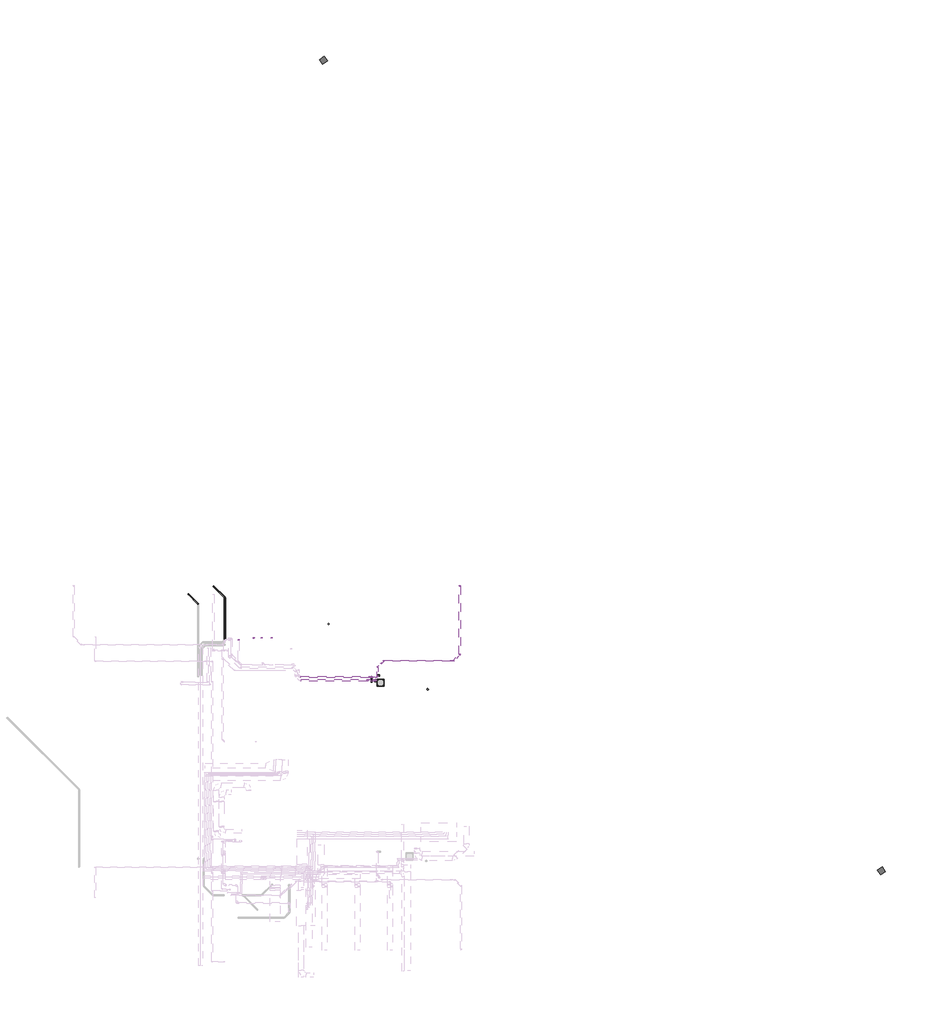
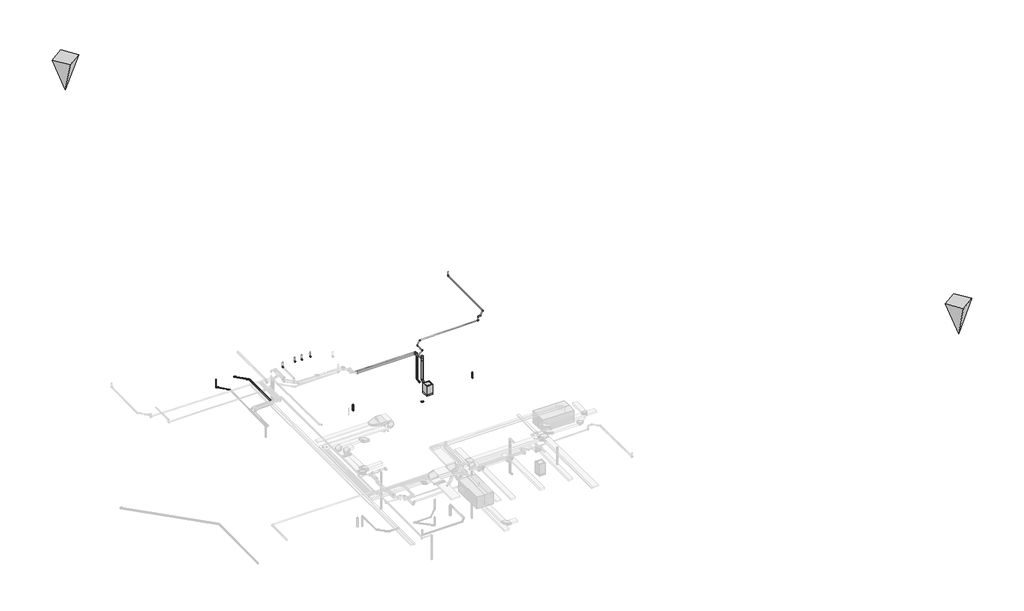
# One storey, part 10 of 10: 29 pipe segments, 25 pipe fittings, 3 proxies.
"""IFC4 building model written with IfcOpenShell, lengths in millimetres."""

from ifc_helpers import new_model, si_unit, point, frame, frame_2d, origin, place, context, project, spatial, circle_curve, trimmed, segment, composite_curve, outline, extrude, transform, mapped, element, save
from components import proxy_50x50_0a914695, pr1_8635f188, pipe_fitting_b994c117, pipe_fitting_5f63dbb8, pipe_fitting_aab77541, pipe_fitting_688cd524, pipe_fitting_7b861d32, pipe_fitting_67d104e7, pipe_fitting_3454c7e7, pipe_fitting_f9aaa2fa, pipe_fitting_5746b48a, pipe_fitting_b37f0415, pipe_fitting_e0fa64fe, pipe_fitting_c1e6232c, pipe_fitting_d6cfa5ea, pipe_fitting_78596532, pipe_fitting_2f575cfb, pipe_fitting_530662ba, pipe_fitting_a3851fe6, pipe_fitting_3241df74, pipe_fitting_8405c6f3

model = new_model("IFC4")

# Units and contexts
model_context = context("Model", 3, world=origin())
ifc_project = project(units=[si_unit("LENGTHUNIT", "METRE", prefix="MILLI")], contexts=[model_context])

# Site, building, storey
site = spatial("IfcSite", under=ifc_project)
building = spatial("IfcBuilding", under=site)
storey = spatial("IfcBuildingStorey", under=building, Name="Nivell 00 P00_PB", Elevation=6330.0)

# Proxies
placement = place(None, origin())
proxy_50x50_shape = proxy_50x50_0a914695(model_context)
element("IfcBuildingElementProxy", 1, Name="ARC_MDL_ME_Arqueta : 50x50", ObjectType="ARC_MDL_ME_Arqueta : 50x50", at=placement, inside=storey, context=model_context, shape_type="MappedRepresentation", body=[
    mapped(proxy_50x50_shape, transform((22537.6337384, 4130.3812229, 6430.0), x_axis=(0.9999999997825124, 2.085605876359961e-05, 0.0), y_axis=(-2.085605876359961e-05, 0.9999999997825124, 0.0), z_axis=(0.0, 0.0, 1.0))),
])
pr1_shape = pr1_8635f188(model_context)
element("IfcBuildingElementProxy", 2, Name="Punt_de_Referència : PR1", ObjectType="Punt_de_Referència : PR1", at=placement, inside=storey, context=model_context, shape_type="MappedRepresentation", body=[
    mapped(pr1_shape, transform((16741.1122791, 67377.5586536, 6380.0), x_axis=(0.5671423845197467, -0.8236197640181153, 0.0), y_axis=(0.8236197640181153, 0.5671423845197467, 0.0), z_axis=(0.0, 0.0, 1.0))),
])
element("IfcBuildingElementProxy", 3, Name="Punt_de_Referència : PR2", ObjectType="Punt_de_Referència : PR2", at=placement, inside=storey, context=model_context, shape_type="MappedRepresentation", body=[
    mapped(pr1_shape, transform((73453.6329725, -14985.6005658, 6380.0), x_axis=(0.5671423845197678, -0.8236197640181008, 0.0), y_axis=(0.8236197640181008, 0.5671423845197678, 0.0), z_axis=(0.0, 0.0, 1.0))),
])

# Pipe fittings
pipe_fitting_shape = pipe_fitting_b994c117(model_context)
element("IfcPipeFitting", 4, ObjectType="M_Codo - Genérico : Estándar", at=placement, inside=storey, context=model_context, shape_type="MappedRepresentation", body=[
    mapped(pipe_fitting_shape, transform((6705.0001359, 12784.8481993, 7256.2973024), x_axis=(0.0, 0.9999500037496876, 0.009999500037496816), y_axis=(-0.9999914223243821, -4.1416859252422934e-05, 0.004141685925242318), z_axis=(0.004141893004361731, -0.009999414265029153, 0.9999414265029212))),
])
pipe_fitting_2_shape = pipe_fitting_5f63dbb8(model_context)
element("IfcPipeFitting", 5, ObjectType="M_Codo - Genérico : Estándar", at=placement, inside=storey, context=model_context, shape_type="MappedRepresentation", body=[
    mapped(pipe_fitting_2_shape, transform((21408.3310884, 4707.5272892, 10338.6137338), x_axis=(0.9999500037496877, 0.0, -0.009999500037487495), y_axis=(-0.009999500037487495, 0.0, -0.9999500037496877), z_axis=(0.0, 1.0, 0.0))),
])
pipe_fitting_3_shape = pipe_fitting_aab77541(model_context)
element("IfcPipeFitting", 6, ObjectType="M_Codo - Genérico : Estándar", at=placement, inside=storey, context=model_context, shape_type="MappedRepresentation", body=[
    mapped(pipe_fitting_3_shape, transform((10460.2234698, 8697.1439797, 10881.5066358), x_axis=(0.0, 0.0, -1.0), y_axis=(0.0, -1.0, 0.0), z_axis=(-1.0, 0.0, 0.0))),
])
element("IfcPipeFitting", 7, ObjectType="M_Codo - Genérico : Estándar", at=placement, inside=storey, context=model_context, shape_type="MappedRepresentation", body=[
    mapped(pipe_fitting_3_shape, transform((9649.7079971, 8695.4444036, 10881.4900042), x_axis=(0.0, 0.0, -1.0), y_axis=(0.7071244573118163, -0.7070891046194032, 0.0), z_axis=(-0.7070891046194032, -0.7071244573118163, 0.0))),
])
element("IfcPipeFitting", 8, ObjectType="M_Codo - Genérico : Estándar", at=placement, inside=storey, context=model_context, shape_type="MappedRepresentation", body=[
    mapped(pipe_fitting_3_shape, transform((11455.8838613, 8697.1675887, 10881.498176), x_axis=(0.0, 0.0, -1.0), y_axis=(0.0, -1.0, 0.0), z_axis=(-1.0, 0.0, 0.0))),
])
element("IfcPipeFitting", 9, ObjectType="M_Codo - Genérico : Estándar", at=placement, inside=storey, context=model_context, shape_type="MappedRepresentation", body=[
    mapped(pipe_fitting_3_shape, transform((22218.7841567, 4866.8024591, 3830.0), x_axis=(0.0, 0.0, -1.0), y_axis=(1.0, 0.0, 0.0), z_axis=(0.0, -1.0, 0.0))),
])
pipe_fitting_4_shape = pipe_fitting_688cd524(model_context)
element("IfcPipeFitting", 10, ObjectType="M_Codo - Genérico : Estándar", at=placement, inside=storey, context=model_context, shape_type="MappedRepresentation", body=[
    mapped(pipe_fitting_4_shape, transform((3005.2304117, 13119.8781896, 7376.1272311), x_axis=(-0.7070714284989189, 0.7070714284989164, 0.009999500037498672), y_axis=(0.00707071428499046, -0.0070707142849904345, 0.9999500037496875), z_axis=(0.7071067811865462, 0.7071067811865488, 0.0))),
])
pipe_fitting_5_shape = pipe_fitting_7b861d32(model_context)
element("IfcPipeFitting", 11, ObjectType="M_Codo - Genérico : Estándar", at=placement, inside=storey, context=model_context, shape_type="MappedRepresentation", body=[
    mapped(pipe_fitting_5_shape, transform((4010.393115, 12114.7154425, 7361.9195534), x_axis=(0.0, 0.9999500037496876, 0.009999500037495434), y_axis=(-0.9999914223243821, -4.141685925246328e-05, 0.004141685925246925), z_axis=(0.004141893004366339, -0.009999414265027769, 0.9999414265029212))),
])
pipe_fitting_6_shape = pipe_fitting_67d104e7(model_context)
element("IfcPipeFitting", 12, ObjectType="M_Codo - Genérico : Estándar", at=placement, inside=storey, context=model_context, shape_type="MappedRepresentation", body=[
    mapped(pipe_fitting_6_shape, transform((30589.4059114, 6984.655764, 10894.9769213), x_axis=(0.0, -0.9999500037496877, -0.009999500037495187), y_axis=(0.9999914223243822, -4.141685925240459e-05, 0.004141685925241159), z_axis=(-0.004141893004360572, -0.009999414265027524, 0.9999414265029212))),
])
element("IfcPipeFitting", 13, ObjectType="M_Codo - Genérico : Estándar", at=placement, inside=storey, context=model_context, shape_type="MappedRepresentation", body=[
    mapped(pipe_fitting_6_shape, transform((22870.1942893, 6350.5932442, 10314.0689991), x_axis=(0.7070714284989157, 0.7070714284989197, 0.009999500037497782), y_axis=(-0.7070714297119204, 0.7071300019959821, -0.004141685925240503), z_axis=(-0.009999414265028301, -0.004141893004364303, 0.9999414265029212))),
])
element("IfcPipeFitting", 14, ObjectType="M_Codo - Genérico : Estándar", at=placement, inside=storey, context=model_context, shape_type="MappedRepresentation", body=[
    mapped(pipe_fitting_6_shape, transform((22222.9422017, 5703.3411566, 10304.9154723), x_axis=(0.0, 0.9999500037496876, 0.009999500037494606), y_axis=(-0.9999914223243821, 4.141685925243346e-05, -0.004141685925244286), z_axis=(-0.004141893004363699, -0.009999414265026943, 0.9999414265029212))),
])
pipe_fitting_7_shape = pipe_fitting_3454c7e7(model_context)
element("IfcPipeFitting", 15, ObjectType="M_Codo - Genérico : Estándar", at=placement, inside=storey, context=model_context, shape_type="MappedRepresentation", body=[
    mapped(pipe_fitting_7_shape, transform((30589.4059114, 13986.9636366, 10965.0), x_axis=(0.0, 0.0, -1.0), y_axis=(0.0, 1.0, 0.0), z_axis=(1.0, 0.0, 0.0))),
])
element("IfcPipeFitting", 16, ObjectType="M_Codo - Genérico : Estándar", at=placement, inside=storey, context=model_context, shape_type="MappedRepresentation", body=[
    mapped(pipe_fitting_7_shape, transform((29687.5703869, 6350.5932442, 10382.24276), x_axis=(0.9999500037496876, 0.0, 0.00999950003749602), y_axis=(0.00999950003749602, 0.0, -0.9999500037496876), z_axis=(0.0, 1.0, 0.0))),
])
pipe_fitting_8_shape = pipe_fitting_f9aaa2fa(model_context)
element("IfcPipeFitting", 17, ObjectType="M_Codo - Genérico : Estándar", at=placement, inside=storey, context=model_context, shape_type="MappedRepresentation", body=[
    mapped(pipe_fitting_8_shape, transform((29955.352721, 6350.6025322, 10886.0030113), x_axis=(-0.7070713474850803, -0.7070713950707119, -0.010007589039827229), y_axis=(0.7070715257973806, -0.7071299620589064, 0.0041320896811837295), z_axis=(-0.009998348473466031, -0.004154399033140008, 0.9999413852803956))),
])
pipe_fitting_9_shape = pipe_fitting_5746b48a(model_context)
element("IfcPipeFitting", 18, ObjectType="M_Codo - Genérico : Estándar", at=placement, inside=storey, context=model_context, shape_type="MappedRepresentation", body=[
    mapped(pipe_fitting_9_shape, transform((29687.5503889, 6350.6025322, 10883.3252733), x_axis=(-0.9999500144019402, 0.0, -0.009998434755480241), y_axis=(-0.009998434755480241, 0.0, 0.9999500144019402), z_axis=(0.0, 1.0, 0.0))),
])
pipe_fitting_10_shape = pipe_fitting_b37f0415(model_context)
element("IfcPipeFitting", 19, ObjectType="M_Codo - Genérico : Estándar", at=placement, inside=storey, context=model_context, shape_type="MappedRepresentation", body=[
    mapped(pipe_fitting_10_shape, transform((22012.4640122, 4371.3835791, 6927.8978029), x_axis=(0.0, 1.0, 0.0), y_axis=(0.0, 0.0, 1.0), z_axis=(1.0, 0.0, 0.0))),
])
pipe_fitting_11_shape = pipe_fitting_e0fa64fe(model_context)
element("IfcPipeFitting", 20, ObjectType="M_Codo - Genérico : Estándar", at=placement, inside=storey, context=model_context, shape_type="MappedRepresentation", body=[
    mapped(pipe_fitting_11_shape, transform((21612.4226846, 4707.5272892, 6927.8978029), x_axis=(0.0, 1.0, 0.0), y_axis=(0.0, 0.0, 1.0), z_axis=(1.0, 0.0, 0.0))),
])
pipe_fitting_12_shape = pipe_fitting_c1e6232c(model_context)
element("IfcPipeFitting", 21, ObjectType="M_Codo - Genérico : Estándar", at=placement, inside=storey, context=model_context, shape_type="MappedRepresentation", body=[
    mapped(pipe_fitting_12_shape, transform((8123.9452525, 8497.1463437, 10880.4509733), x_axis=(0.0, 0.0, -1.0), y_axis=(-1.92108497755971e-07, -0.9999999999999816, 0.0), z_axis=(-0.9999999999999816, 1.92108497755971e-07, 0.0))),
])
pipe_fitting_13_shape = pipe_fitting_d6cfa5ea(model_context)
element("IfcPipeFitting", 22, ObjectType="M_Codo - Genérico : Estándar", at=placement, inside=storey, context=model_context, shape_type="MappedRepresentation", body=[
    mapped(pipe_fitting_13_shape, transform((21612.4226846, 4707.5272892, 10134.5221377), x_axis=(0.0, 0.0, 1.0), y_axis=(-1.0, 0.0, 0.0), z_axis=(0.0, -1.0, 0.0))),
])
pipe_fitting_14_shape = pipe_fitting_78596532(model_context)
element("IfcPipeFitting", 23, ObjectType="M_Codo - Genérico : Estándar", at=placement, inside=storey, context=model_context, shape_type="MappedRepresentation", body=[
    mapped(pipe_fitting_14_shape, transform((27334.9640075, 3449.9042518, 5880.0), x_axis=(-2.2717310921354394e-05, -1.762650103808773e-06, -0.9999999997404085), y_axis=(0.7072826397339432, 0.7069308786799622, -1.731363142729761e-05), z_axis=(0.7069308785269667, -0.7072826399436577, -1.4812876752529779e-05))),
])
pipe_fitting_15_shape = pipe_fitting_2f575cfb(model_context)
element("IfcPipeFitting", 24, ObjectType="M_Codo - Genérico : Estándar", at=placement, inside=storey, context=model_context, shape_type="MappedRepresentation", body=[
    mapped(pipe_fitting_15_shape, transform((21196.6651665, 4371.3835791, 10455.6269544), x_axis=(0.9999999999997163, 0.0, 7.532783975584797e-07), y_axis=(7.532783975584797e-07, 0.0, -0.9999999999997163), z_axis=(0.0, 1.0, 0.0))),
])
pipe_fitting_16_shape = pipe_fitting_530662ba(model_context)
element("IfcPipeFitting", 25, ObjectType="M_Codo - Genérico : Estándar", at=placement, inside=storey, context=model_context, shape_type="MappedRepresentation", body=[
    mapped(pipe_fitting_16_shape, transform((22222.9422017, 4703.2161747, 10294.9142224), x_axis=(0.0, -0.9999500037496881, -0.009999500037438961), y_axis=(-0.7071244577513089, 0.0070705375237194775, -0.7070537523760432), z_axis=(0.7070891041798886, 0.007070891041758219, -0.7070891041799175))),
])
pipe_fitting_17_shape = pipe_fitting_a3851fe6(model_context)
element("IfcPipeFitting", 26, ObjectType="M_Te - Genérica : Estándar", at=placement, inside=storey, context=model_context, shape_type="MappedRepresentation", body=[
    mapped(pipe_fitting_17_shape, transform((21612.4226846, 4707.5272892, 9684.3947053), x_axis=(0.0, 0.0, 1.0), y_axis=(-1.0, 0.0, 0.0), z_axis=(0.0, -1.0, 0.0))),
])
pipe_fitting_18_shape = pipe_fitting_3241df74(model_context)
element("IfcPipeFitting", 27, ObjectType="M_Transición - Genérica : Estándar", at=placement, inside=storey, context=model_context, shape_type="MappedRepresentation", body=[
    mapped(pipe_fitting_18_shape, transform((21723.5339972, 4707.5272892, 9795.5060179), x_axis=(0.7071067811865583, 0.0, 0.7071067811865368), y_axis=(0.0, 1.0000000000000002, 0.0), z_axis=(-0.7071067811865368, 0.0, 0.7071067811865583))),
])
pipe_fitting_19_shape = pipe_fitting_8405c6f3(model_context)
element("IfcPipeFitting", 28, ObjectType="M_Te - Genérica : Estándar", at=placement, inside=storey, context=model_context, shape_type="MappedRepresentation", body=[
    mapped(pipe_fitting_19_shape, transform((22012.4640122, 4371.3835791, 9639.8281087), x_axis=(0.0, 0.0, 1.0), y_axis=(1.0, 0.0, 0.0), z_axis=(0.0, 1.0, 0.0))),
])

# Pipe segments
element("IfcPipeSegment", 29, ObjectType="PVC_Baixant", at=placement, inside=storey, context=model_context, shape_type="SweptSolid", body=[
    extrude(outline(composite_curve([segment(trimmed(circle_curve(frame_2d((0.0, -44.9999999)), 45.0), [point((-44.9977529, -45.4497056))], [point((-0.4497057, -0.0022471))], False, "CARTESIAN"), True, "CONTINUOUS"), segment(trimmed(circle_curve(frame_2d((0.0, -44.9999999)), 45.0), [point((-0.4497057, -0.0022471))], [point((44.9977529, -44.5502943))], False, "CARTESIAN"), True, "CONTINUOUS"), segment(trimmed(circle_curve(frame_2d((0.0, -44.9999999)), 45.0), [point((44.9977529, -44.5502943))], [point((0.4497058, -89.9977529))], False, "CARTESIAN"), True, "CONTINUOUS"), segment(trimmed(circle_curve(frame_2d((0.0, -44.9999999)), 45.0), [point((0.4497058, -89.9977529))], [point((-44.9977529, -45.4497056))], False, "CARTESIAN"), True, "CONTINUOUS")], self_intersect=False)), frame((3995.0508373, 12130.6937001, 7317.1410203), z_axis=(-0.7070714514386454, 0.7070714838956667, 0.009993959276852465), x_axis=(0.7071421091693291, 0.7070008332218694, 0.00999296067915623)), (0.0, 0.0, 1.0), 1348.0211714),
])
element("IfcPipeSegment", 30, ObjectType="PVC_Baixant", at=placement, inside=storey, context=model_context, shape_type="SweptSolid", body=[
    extrude(outline(composite_curve([segment(trimmed(circle_curve(frame_2d((0.0, 45.0)), 45.0), [point((-45.0, 45.0000001))], [point((0.0, 90.0000001))], False, "CARTESIAN"), True, "CONTINUOUS"), segment(trimmed(circle_curve(frame_2d((0.0, 45.0)), 45.0), [point((0.0, 90.0000001))], [point((44.9999999, 45.0))], False, "CARTESIAN"), True, "CONTINUOUS"), segment(trimmed(circle_curve(frame_2d((0.0, 45.0)), 45.0), [point((44.9999999, 45.0))], [point((-1e-07, 0.0))], False, "CARTESIAN"), True, "CONTINUOUS"), segment(trimmed(circle_curve(frame_2d((0.0, 45.0)), 45.0), [point((-1e-07, 0.0))], [point((-45.0, 45.0000001))], False, "CARTESIAN"), True, "CONTINUOUS")], self_intersect=False)), frame((3005.2304117, 13074.8781896, 7427.9919495), z_axis=(2.7901125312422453e-05, -3.390950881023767e-05, 0.9999999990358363), x_axis=(0.9999999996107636, 9.461160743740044e-10, -2.790112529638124e-05)), (0.0, 0.0, 1.0), 882.0056129),
])
element("IfcPipeSegment", 31, ObjectType="PVC_Baixant", at=placement, inside=storey, context=model_context, shape_type="SweptSolid", body=[
    extrude(outline(composite_curve([segment(trimmed(circle_curve(frame_2d((0.0, -62.5000001)), 62.5), [point((-62.4968756, -63.1249376))], [point((-0.6249376, -0.0031245))], False, "CARTESIAN"), True, "CONTINUOUS"), segment(trimmed(circle_curve(frame_2d((0.0, -62.5000001)), 62.5), [point((-0.6249376, -0.0031245))], [point((62.4968755, -61.8750626))], False, "CARTESIAN"), True, "CONTINUOUS"), segment(trimmed(circle_curve(frame_2d((0.0, -62.5000001)), 62.5), [point((62.4968755, -61.8750626))], [point((0.6249374, -124.9968756))], False, "CARTESIAN"), True, "CONTINUOUS"), segment(trimmed(circle_curve(frame_2d((0.0, -62.5000001)), 62.5), [point((0.6249374, -124.9968756))], [point((-62.4968756, -63.1249376))], False, "CARTESIAN"), True, "CONTINUOUS")], self_intersect=False)), frame((6684.0788482, 12806.6532821, 7194.0994231), z_axis=(-0.707071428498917, 0.7070714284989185, 0.009999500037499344), x_axis=(0.7071421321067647, 0.7070007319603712, 0.00999850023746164)), (0.0, 0.0, 1.0), 1610.8919232),
])
element("IfcPipeSegment", 32, ObjectType="PVC_Baixant", at=placement, inside=storey, context=model_context, shape_type="SweptSolid", body=[
    extrude(outline(composite_curve([segment(trimmed(circle_curve(frame_2d((0.0, -62.5)), 62.5), [point((-62.5, -62.5))], [point((0.0, 0.0))], False, "CARTESIAN"), True, "CONTINUOUS"), segment(trimmed(circle_curve(frame_2d((0.0, -62.5)), 62.5), [point((0.0, 0.0))], [point((62.5, -62.5))], False, "CARTESIAN"), True, "CONTINUOUS"), segment(trimmed(circle_curve(frame_2d((0.0, -62.5)), 62.5), [point((62.5, -62.5))], [point((0.0, -125.0))], False, "CARTESIAN"), True, "CONTINUOUS"), segment(trimmed(circle_curve(frame_2d((0.0, -62.5)), 62.5), [point((0.0, -125.0))], [point((-62.5, -62.5))], False, "CARTESIAN"), True, "CONTINUOUS")], self_intersect=False)), frame((6705.0001359, 8485.2923614, 7150.7986191), z_axis=(0.0, 0.9999500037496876, 0.009999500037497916), x_axis=(1.0, 0.0, 0.0)), (0.0, 0.0, 1.0), 4270.8071621),
])
element("IfcPipeSegment", 33, ObjectType="PVC_Baixant", at=placement, inside=storey, context=model_context, shape_type="SweptSolid", body=[
    extrude(outline(composite_curve([segment(trimmed(circle_curve(frame_2d((17253.9363133, 10102.8257604)), 62.5), [point((17191.4363133, 10102.8257604))], [point((17253.9363133, 10165.3257604))], False, "CARTESIAN"), True, "CONTINUOUS"), segment(trimmed(circle_curve(frame_2d((17253.9363133, 10102.8257604)), 62.5), [point((17253.9363133, 10165.3257604))], [point((17316.4363133, 10102.8257604))], False, "CARTESIAN"), True, "CONTINUOUS"), segment(trimmed(circle_curve(frame_2d((17253.9363133, 10102.8257604)), 62.5), [point((17316.4363133, 10102.8257604))], [point((17253.9363133, 10040.3257604))], False, "CARTESIAN"), True, "CONTINUOUS"), segment(trimmed(circle_curve(frame_2d((17253.9363133, 10102.8257604)), 62.5), [point((17253.9363133, 10040.3257604))], [point((17191.4363133, 10102.8257604))], False, "CARTESIAN"), True, "CONTINUOUS")], self_intersect=False)), frame((0.0, 0.0, 1355.9341244), z_axis=(0.0, 0.0, 1.0), x_axis=(1.0, 0.0, 0.0)), (0.0, 0.0, 1.0), 698.4999375),
])
element("IfcPipeSegment", 34, ObjectType="PVC_Baixant", at=placement, inside=storey, context=model_context, shape_type="SweptSolid", body=[
    extrude(outline(composite_curve([segment(trimmed(circle_curve(frame_2d((30589.4059114, 13986.9636366)), 55.0), [point((30534.4059114, 13986.9636366))], [point((30589.4059114, 14041.9636366))], False, "CARTESIAN"), True, "CONTINUOUS"), segment(trimmed(circle_curve(frame_2d((30589.4059114, 13986.9636366)), 55.0), [point((30589.4059114, 14041.9636366))], [point((30644.4059114, 13986.9636366))], False, "CARTESIAN"), True, "CONTINUOUS"), segment(trimmed(circle_curve(frame_2d((30589.4059114, 13986.9636366)), 55.0), [point((30644.4059114, 13986.9636366))], [point((30589.4059114, 13931.9636366))], False, "CARTESIAN"), True, "CONTINUOUS"), segment(trimmed(circle_curve(frame_2d((30589.4059114, 13986.9636366)), 55.0), [point((30589.4059114, 13931.9636366))], [point((30534.4059114, 13986.9636366))], False, "CARTESIAN"), True, "CONTINUOUS")], self_intersect=False)), frame((0.0, 0.0, 11027.3112718), z_axis=(0.0, 0.0, 1.0), x_axis=(1.0, 0.0, 0.0)), (0.0, 0.0, 1.0), 402.6887282),
])
element("IfcPipeSegment", 35, ObjectType="PVC_Baixant", at=placement, inside=storey, context=model_context, shape_type="SweptSolid", body=[
    extrude(outline(composite_curve([segment(trimmed(circle_curve(frame_2d((0.0, -55.0)), 55.0), [point((-55.0, -55.0))], [point((0.0, 0.0))], False, "CARTESIAN"), True, "CONTINUOUS"), segment(trimmed(circle_curve(frame_2d((0.0, -55.0)), 55.0), [point((0.0, 0.0))], [point((55.0, -55.0))], False, "CARTESIAN"), True, "CONTINUOUS"), segment(trimmed(circle_curve(frame_2d((0.0, -55.0)), 55.0), [point((55.0, -55.0))], [point((0.0, -110.0))], False, "CARTESIAN"), True, "CONTINUOUS"), segment(trimmed(circle_curve(frame_2d((0.0, -55.0)), 55.0), [point((0.0, -110.0))], [point((-55.0, -55.0))], False, "CARTESIAN"), True, "CONTINUOUS")], self_intersect=False)), frame((30589.4059114, 7011.2724723, 10840.2403384), z_axis=(0.0, 0.9999500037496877, 0.009999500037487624), x_axis=(1.0, 0.0, 0.0)), (0.0, 0.0, 1.0), 6914.2786683),
])
element("IfcPipeSegment", 36, ObjectType="PVC_Baixant", at=placement, inside=storey, context=model_context, shape_type="SweptSolid", body=[
    extrude(outline(composite_curve([segment(trimmed(circle_curve(frame_2d((0.0, -55.0)), 55.0), [point((-54.997246, -54.4496102))], [point((0.5503898, -0.0027539))], False, "CARTESIAN"), True, "CONTINUOUS"), segment(trimmed(circle_curve(frame_2d((0.0, -55.0)), 55.0), [point((0.5503898, -0.0027539))], [point((54.997246, -55.5503898))], False, "CARTESIAN"), True, "CONTINUOUS"), segment(trimmed(circle_curve(frame_2d((0.0, -55.0)), 55.0), [point((54.997246, -55.5503898))], [point((-0.5503899, -109.9972461))], False, "CARTESIAN"), True, "CONTINUOUS"), segment(trimmed(circle_curve(frame_2d((0.0, -55.0)), 55.0), [point((-0.5503899, -109.9972461))], [point((-54.997246, -54.4496102))], False, "CARTESIAN"), True, "CONTINUOUS")], self_intersect=False)), frame((29973.7846855, 6369.8128666, 10831.2693976), z_axis=(0.7070713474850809, 0.7070713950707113, 0.010007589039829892), x_axis=(0.7071422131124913, -0.707000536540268, -0.010006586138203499)), (0.0, 0.0, 1.0), 844.5954746),
])
element("IfcPipeSegment", 37, ObjectType="PVC_Baixant", at=placement, inside=storey, context=model_context, shape_type="SweptSolid", body=[
    extrude(outline(composite_curve([segment(trimmed(circle_curve(frame_2d((0.0, -55.0)), 55.0), [point((0.0, 0.0))], [point((55.0, -55.0))], False, "CARTESIAN"), True, "CONTINUOUS"), segment(trimmed(circle_curve(frame_2d((0.0, -55.0)), 55.0), [point((55.0, -55.0))], [point((0.0, -110.0))], False, "CARTESIAN"), True, "CONTINUOUS"), segment(trimmed(circle_curve(frame_2d((0.0, -55.0)), 55.0), [point((0.0, -110.0))], [point((-55.0, -55.0))], False, "CARTESIAN"), True, "CONTINUOUS"), segment(trimmed(circle_curve(frame_2d((0.0, -55.0)), 55.0), [point((-55.0, -55.0))], [point((0.0, 0.0))], False, "CARTESIAN"), True, "CONTINUOUS")], self_intersect=False)), frame((22896.2610251, 6405.5932442, 10314.3296664), z_axis=(0.9999500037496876, 0.0, 0.009999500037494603), x_axis=(0.009999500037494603, 0.0, -0.9999500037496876)), (0.0, 0.0, 1.0), 6729.3376471),
])
element("IfcPipeSegment", 38, ObjectType="PVC_Baixant", at=placement, inside=storey, context=model_context, shape_type="SweptSolid", body=[
    extrude(outline(composite_curve([segment(trimmed(circle_curve(frame_2d((0.0, -55.0)), 55.0), [point((-54.9972505, -54.450055))], [point((0.549945, -0.0027495))], False, "CARTESIAN"), True, "CONTINUOUS"), segment(trimmed(circle_curve(frame_2d((0.0, -55.0)), 55.0), [point((0.549945, -0.0027495))], [point((54.9972505, -55.549945))], False, "CARTESIAN"), True, "CONTINUOUS"), segment(trimmed(circle_curve(frame_2d((0.0, -55.0)), 55.0), [point((54.9972505, -55.549945))], [point((-0.5499449, -109.9972505))], False, "CARTESIAN"), True, "CONTINUOUS"), segment(trimmed(circle_curve(frame_2d((0.0, -55.0)), 55.0), [point((-0.5499449, -109.9972505))], [point((-54.9972505, -54.450055))], False, "CARTESIAN"), True, "CONTINUOUS")], self_intersect=False)), frame((22241.3741673, 5722.5508619, 10250.1816388), z_axis=(0.707071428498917, 0.7070714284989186, 0.009999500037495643), x_axis=(0.7071421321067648, -0.7070007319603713, -0.009998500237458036)), (0.0, 0.0, 1.0), 863.2623688),
])
element("IfcPipeSegment", 39, ObjectType="PVC_Baixant", at=placement, inside=storey, context=model_context, shape_type="SweptSolid", body=[
    extrude(outline(composite_curve([segment(trimmed(circle_curve(frame_2d((0.0, -55.0)), 55.0), [point((0.0, 0.0))], [point((55.0, -55.0))], False, "CARTESIAN"), True, "CONTINUOUS"), segment(trimmed(circle_curve(frame_2d((0.0, -55.0)), 55.0), [point((55.0, -55.0))], [point((0.0, -110.0))], False, "CARTESIAN"), True, "CONTINUOUS"), segment(trimmed(circle_curve(frame_2d((0.0, -55.0)), 55.0), [point((0.0, -110.0))], [point((-55.0, -55.0))], False, "CARTESIAN"), True, "CONTINUOUS"), segment(trimmed(circle_curve(frame_2d((0.0, -55.0)), 55.0), [point((-55.0, -55.0))], [point((0.0, 0.0))], False, "CARTESIAN"), True, "CONTINUOUS")], self_intersect=False)), frame((29749.8586125, 6405.6025322, 10883.9482891), z_axis=(0.9999500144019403, 0.0, 0.009998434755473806), x_axis=(0.009998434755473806, 0.0, -0.9999500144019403)), (0.0, 0.0, 1.0), 179.4363416),
])
element("IfcPipeSegment", 40, ObjectType="PVC_Baixant", at=placement, inside=storey, context=model_context, shape_type="SweptSolid", body=[
    extrude(outline(composite_curve([segment(trimmed(circle_curve(frame_2d((0.0, 55.0)), 55.0), [point((-55.0, 55.0000001))], [point((1e-07, 109.9999999))], False, "CARTESIAN"), True, "CONTINUOUS"), segment(trimmed(circle_curve(frame_2d((0.0, 55.0)), 55.0), [point((1e-07, 109.9999999))], [point((55.0000001, 54.9999999))], False, "CARTESIAN"), True, "CONTINUOUS"), segment(trimmed(circle_curve(frame_2d((0.0, 55.0)), 55.0), [point((55.0000001, 54.9999999))], [point((0.0, 0.0))], False, "CARTESIAN"), True, "CONTINUOUS"), segment(trimmed(circle_curve(frame_2d((0.0, 55.0)), 55.0), [point((0.0, 0.0))], [point((-55.0, 55.0000001))], False, "CARTESIAN"), True, "CONTINUOUS")], self_intersect=False)), frame((29687.5703869, 6295.5932442, 10444.5553888), z_axis=(-5.3121196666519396e-05, 2.467209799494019e-05, 0.9999999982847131), x_axis=(0.9999999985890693, 1.3106102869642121e-09, 5.312119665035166e-05)), (0.0, 0.0, 1.0), 376.4598967),
])
element("IfcPipeSegment", 41, ObjectType="PVC_Baixant", at=placement, inside=storey, context=model_context, shape_type="SweptSolid", body=[
    extrude(outline(composite_curve([segment(trimmed(circle_curve(frame_2d((0.0, -55.0)), 55.0), [point((-55.0, -55.0))], [point((0.0, 0.0))], False, "CARTESIAN"), True, "CONTINUOUS"), segment(trimmed(circle_curve(frame_2d((0.0, -55.0)), 55.0), [point((0.0, 0.0))], [point((55.0, -55.0))], False, "CARTESIAN"), True, "CONTINUOUS"), segment(trimmed(circle_curve(frame_2d((0.0, -55.0)), 55.0), [point((55.0, -55.0))], [point((0.0, -110.0))], False, "CARTESIAN"), True, "CONTINUOUS"), segment(trimmed(circle_curve(frame_2d((0.0, -55.0)), 55.0), [point((0.0, -110.0))], [point((-55.0, -55.0))], False, "CARTESIAN"), True, "CONTINUOUS")], self_intersect=False)), frame((22222.9422017, 4766.2570719, 10240.5418815), z_axis=(0.0, 0.9999500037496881, 0.009999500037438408), x_axis=(1.0, 0.0, 0.0)), (0.0, 0.0, 1.0), 911.6128986),
])
element("IfcPipeSegment", 42, ObjectType="PVC_Baixant", at=placement, inside=storey, context=model_context, shape_type="SweptSolid", body=[
    extrude(outline(composite_curve([segment(trimmed(circle_curve(frame_2d((0.0, 62.4999999)), 62.5), [point((-62.5, 62.4999999))], [point((-1e-07, 124.9999999))], False, "CARTESIAN"), True, "CONTINUOUS"), segment(trimmed(circle_curve(frame_2d((0.0, 62.4999999)), 62.5), [point((-1e-07, 124.9999999))], [point((62.5, 62.4999999))], False, "CARTESIAN"), True, "CONTINUOUS"), segment(trimmed(circle_curve(frame_2d((0.0, 62.4999999)), 62.5), [point((62.5, 62.4999999))], [point((0.0, 0.0))], False, "CARTESIAN"), True, "CONTINUOUS"), segment(trimmed(circle_curve(frame_2d((0.0, 62.4999999)), 62.5), [point((0.0, 0.0))], [point((-62.5, 62.4999999))], False, "CARTESIAN"), True, "CONTINUOUS")], self_intersect=False)), frame((27334.9656143, 3387.4043765, 5950.7264374), z_axis=(-6.163438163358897e-06, -2.374313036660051e-05, 0.999999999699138), x_axis=(0.9999999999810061, -1.463398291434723e-10, 6.163438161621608e-06)), (0.0, 0.0, 1.0), 629.2720788),
])
element("IfcPipeSegment", 43, ObjectType="PVC_Baixant", at=placement, inside=storey, context=model_context, shape_type="SweptSolid", body=[
    extrude(outline(composite_curve([segment(trimmed(circle_curve(frame_2d((0.0, 55.0)), 55.0), [point((-55.0, 54.9999998))], [point((-1e-07, 109.9999999))], False, "CARTESIAN"), True, "CONTINUOUS"), segment(trimmed(circle_curve(frame_2d((0.0, 55.0)), 55.0), [point((-1e-07, 109.9999999))], [point((55.0000001, 55.0000001))], False, "CARTESIAN"), True, "CONTINUOUS"), segment(trimmed(circle_curve(frame_2d((0.0, 55.0)), 55.0), [point((55.0000001, 55.0000001))], [point((1e-07, 0.0))], False, "CARTESIAN"), True, "CONTINUOUS"), segment(trimmed(circle_curve(frame_2d((0.0, 55.0)), 55.0), [point((1e-07, 0.0))], [point((-55.0, 54.9999998))], False, "CARTESIAN"), True, "CONTINUOUS")], self_intersect=False)), frame((9649.7079971, 8640.4444037, 10943.8038455), z_axis=(4.6715793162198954e-05, 4.671812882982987e-05, 0.9999999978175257), x_axis=(0.9999999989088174, -2.1824746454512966e-09, -4.6715793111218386e-05)), (0.0, 0.0, 1.0), 486.1987251),
])
element("IfcPipeSegment", 44, ObjectType="PVC_Baixant", at=placement, inside=storey, context=model_context, shape_type="SweptSolid", body=[
    extrude(outline(composite_curve([segment(trimmed(circle_curve(frame_2d((0.0, 55.0)), 55.0), [point((-55.0, 55.0))], [point((0.0, 110.0))], False, "CARTESIAN"), True, "CONTINUOUS"), segment(trimmed(circle_curve(frame_2d((0.0, 55.0)), 55.0), [point((0.0, 110.0))], [point((55.0, 55.0))], False, "CARTESIAN"), True, "CONTINUOUS"), segment(trimmed(circle_curve(frame_2d((0.0, 55.0)), 55.0), [point((55.0, 55.0))], [point((0.0, 0.0))], False, "CARTESIAN"), True, "CONTINUOUS"), segment(trimmed(circle_curve(frame_2d((0.0, 55.0)), 55.0), [point((0.0, 0.0))], [point((-55.0, 55.0))], False, "CARTESIAN"), True, "CONTINUOUS")], self_intersect=False)), frame((10460.2234698, 8642.1439798, 10943.8145453), z_axis=(-5.853505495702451e-07, -6.113222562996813e-05, 0.9999999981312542), x_axis=(0.9999999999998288, -3.578293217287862e-11, 5.85350548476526e-07)), (0.0, 0.0, 1.0), 486.1820905),
])
element("IfcPipeSegment", 45, ObjectType="PVC_Baixant", at=placement, inside=storey, context=model_context, shape_type="SweptSolid", body=[
    extrude(outline(composite_curve([segment(trimmed(circle_curve(frame_2d((0.0, 55.0)), 55.0), [point((-55.0, 55.0))], [point((0.0, 110.0))], False, "CARTESIAN"), True, "CONTINUOUS"), segment(trimmed(circle_curve(frame_2d((0.0, 55.0)), 55.0), [point((0.0, 110.0))], [point((55.0, 55.0))], False, "CARTESIAN"), True, "CONTINUOUS"), segment(trimmed(circle_curve(frame_2d((0.0, 55.0)), 55.0), [point((55.0, 55.0))], [point((0.0, 0.0))], False, "CARTESIAN"), True, "CONTINUOUS"), segment(trimmed(circle_curve(frame_2d((0.0, 55.0)), 55.0), [point((0.0, 0.0))], [point((-55.0, 55.0))], False, "CARTESIAN"), True, "CONTINUOUS")], self_intersect=False)), frame((11455.8838613, 8642.1675888, 10943.8060544), z_axis=(0.0, -6.169803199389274e-05, 0.9999999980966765), x_axis=(1.0, 0.0, 0.0)), (0.0, 0.0, 1.0), 486.1905532),
])
element("IfcPipeSegment", 46, ObjectType="PVC_Baixant", at=placement, inside=storey, context=model_context, shape_type="SweptSolid", body=[
    extrude(outline(composite_curve([segment(trimmed(circle_curve(frame_2d((8123.9452525, 8497.1463437)), 55.0), [point((8068.9452525, 8497.1463437))], [point((8123.9452525, 8552.1463437))], False, "CARTESIAN"), True, "CONTINUOUS"), segment(trimmed(circle_curve(frame_2d((8123.9452525, 8497.1463437)), 55.0), [point((8123.9452525, 8552.1463437))], [point((8178.9452525, 8497.1463437))], False, "CARTESIAN"), True, "CONTINUOUS"), segment(trimmed(circle_curve(frame_2d((8123.9452525, 8497.1463437)), 55.0), [point((8178.9452525, 8497.1463437))], [point((8123.9452525, 8442.1463437))], False, "CARTESIAN"), True, "CONTINUOUS"), segment(trimmed(circle_curve(frame_2d((8123.9452525, 8497.1463437)), 55.0), [point((8123.9452525, 8442.1463437))], [point((8068.9452525, 8497.1463437))], False, "CARTESIAN"), True, "CONTINUOUS")], self_intersect=False)), frame((0.0, 0.0, 10943.1995357), z_axis=(0.0, 0.0, 1.0), x_axis=(1.0, 0.0, 0.0)), (0.0, 0.0, 1.0), 484.8005643),
])
element("IfcPipeSegment", 47, ObjectType="PVC_Baixant", at=placement, inside=storey, context=model_context, shape_type="SweptSolid", body=[
    extrude(outline(composite_curve([segment(trimmed(circle_curve(frame_2d((0.0, -55.0)), 55.0), [point((0.0, -110.0))], [point((-55.0, -55.0))], False, "CARTESIAN"), True, "CONTINUOUS"), segment(trimmed(circle_curve(frame_2d((0.0, -55.0)), 55.0), [point((-55.0, -55.0))], [point((0.0, 0.0))], False, "CARTESIAN"), True, "CONTINUOUS"), segment(trimmed(circle_curve(frame_2d((0.0, -55.0)), 55.0), [point((0.0, 0.0))], [point((55.0, -55.0))], False, "CARTESIAN"), True, "CONTINUOUS"), segment(trimmed(circle_curve(frame_2d((0.0, -55.0)), 55.0), [point((55.0, -55.0))], [point((0.0, -110.0))], False, "CARTESIAN"), True, "CONTINUOUS")], self_intersect=False)), frame((22438.7691599, 4921.8024591, 3827.80015), z_axis=(-0.999950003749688, 0.0, 0.009999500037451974), x_axis=(0.009999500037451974, 0.0, 0.999950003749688)), (0.0, 0.0, 1.0), 157.6847303),
])
element("IfcPipeSegment", 48, ObjectType="PVC_Baixant", at=placement, inside=storey, context=model_context, shape_type="SweptSolid", body=[
    extrude(outline(composite_curve([segment(trimmed(circle_curve(frame_2d((0.0, 100.0)), 100.0), [point((-100.0, 100.0))], [point((0.0, 200.0))], False, "CARTESIAN"), True, "CONTINUOUS"), segment(trimmed(circle_curve(frame_2d((0.0, 100.0)), 100.0), [point((0.0, 200.0))], [point((100.0, 100.0))], False, "CARTESIAN"), True, "CONTINUOUS"), segment(trimmed(circle_curve(frame_2d((0.0, 100.0)), 100.0), [point((100.0, 100.0))], [point((0.0, 0.0))], False, "CARTESIAN"), True, "CONTINUOUS"), segment(trimmed(circle_curve(frame_2d((0.0, 100.0)), 100.0), [point((0.0, 0.0))], [point((-100.0, 100.0))], False, "CARTESIAN"), True, "CONTINUOUS")], self_intersect=False)), frame((14442.0402083, 4371.3835791, 10355.6218663), z_axis=(0.9999999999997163, 0.0, 7.532784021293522e-07), x_axis=(0.0, 1.0, 0.0)), (0.0, 0.0, 1.0), 6709.2530671),
])
element("IfcPipeSegment", 49, ObjectType="PVC_Baixant", at=placement, inside=storey, context=model_context, shape_type="SweptSolid", body=[
    extrude(outline(composite_curve([segment(trimmed(circle_curve(frame_2d((0.0, 100.0)), 100.0), [point((0.0, 200.0))], [point((100.0, 100.0))], False, "CARTESIAN"), True, "CONTINUOUS"), segment(trimmed(circle_curve(frame_2d((0.0, 100.0)), 100.0), [point((100.0, 100.0))], [point((0.0, 0.0))], False, "CARTESIAN"), True, "CONTINUOUS"), segment(trimmed(circle_curve(frame_2d((0.0, 100.0)), 100.0), [point((0.0, 0.0))], [point((-100.0, 100.0))], False, "CARTESIAN"), True, "CONTINUOUS"), segment(trimmed(circle_curve(frame_2d((0.0, 100.0)), 100.0), [point((-100.0, 100.0))], [point((0.0, 200.0))], False, "CARTESIAN"), True, "CONTINUOUS")], self_intersect=False)), frame((21836.3119313, 4271.3835791, 9815.9801897), z_axis=(-0.7071067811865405, 0.0, 0.7071067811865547), x_axis=(0.7071067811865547, 0.0, 0.7071067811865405)), (0.0, 0.0, 1.0), 859.2251634),
])
element("IfcPipeSegment", 50, ObjectType="PVC_Baixant", at=placement, inside=storey, context=model_context, shape_type="SweptSolid", body=[
    extrude(outline(composite_curve([segment(trimmed(circle_curve(frame_2d((22012.4640122, 4371.3835791)), 100.0), [point((22112.4640122, 4371.3835791))], [point((22012.4640122, 4271.3835791))], False, "CARTESIAN"), True, "CONTINUOUS"), segment(trimmed(circle_curve(frame_2d((22012.4640122, 4371.3835791)), 100.0), [point((22012.4640122, 4271.3835791))], [point((21912.4640122, 4371.3835791))], False, "CARTESIAN"), True, "CONTINUOUS"), segment(trimmed(circle_curve(frame_2d((22012.4640122, 4371.3835791)), 100.0), [point((21912.4640122, 4371.3835791))], [point((22012.4640122, 4471.3835791))], False, "CARTESIAN"), True, "CONTINUOUS"), segment(trimmed(circle_curve(frame_2d((22012.4640122, 4371.3835791)), 100.0), [point((22012.4640122, 4471.3835791))], [point((22112.4640122, 4371.3835791))], False, "CARTESIAN"), True, "CONTINUOUS")], self_intersect=False)), frame((0.0, 0.0, 7037.4353029), z_axis=(0.0, 0.0, 1.0), x_axis=(1.0, 0.0, 0.0)), (0.0, 0.0, 1.0), 2353.2761438),
])
element("IfcPipeSegment", 51, ObjectType="PVC_Baixant", at=placement, inside=storey, context=model_context, shape_type="SweptSolid", body=[
    extrude(outline(composite_curve([segment(trimmed(circle_curve(frame_2d((0.0, -62.5)), 62.5), [point((0.0, -125.0))], [point((-62.5, -62.5))], False, "CARTESIAN"), True, "CONTINUOUS"), segment(trimmed(circle_curve(frame_2d((0.0, -62.5)), 62.5), [point((-62.5, -62.5))], [point((0.0, 0.0))], False, "CARTESIAN"), True, "CONTINUOUS"), segment(trimmed(circle_curve(frame_2d((0.0, -62.5)), 62.5), [point((0.0, 0.0))], [point((62.5, -62.5))], False, "CARTESIAN"), True, "CONTINUOUS"), segment(trimmed(circle_curve(frame_2d((0.0, -62.5)), 62.5), [point((62.5, -62.5))], [point((0.0, -125.0))], False, "CARTESIAN"), True, "CONTINUOUS")], self_intersect=False)), frame((21379.1597614, 4770.0272892, 10338.9054471), z_axis=(-0.9999500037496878, 0.0, 0.009999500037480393), x_axis=(0.009999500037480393, 0.0, 0.9999500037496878)), (0.0, 0.0, 1.0), 6960.5207834),
])
element("IfcPipeSegment", 52, ObjectType="PVC_Baixant", at=placement, inside=storey, context=model_context, shape_type="SweptSolid", body=[
    extrude(outline(composite_curve([segment(trimmed(circle_curve(frame_2d((21612.4226846, 4707.5272892)), 62.5), [point((21549.9226846, 4707.5272892))], [point((21612.4226846, 4770.0272892))], False, "CARTESIAN"), True, "CONTINUOUS"), segment(trimmed(circle_curve(frame_2d((21612.4226846, 4707.5272892)), 62.5), [point((21612.4226846, 4770.0272892))], [point((21674.9226846, 4707.5272892))], False, "CARTESIAN"), True, "CONTINUOUS"), segment(trimmed(circle_curve(frame_2d((21612.4226846, 4707.5272892)), 62.5), [point((21674.9226846, 4707.5272892))], [point((21612.4226846, 4645.0272892))], False, "CARTESIAN"), True, "CONTINUOUS"), segment(trimmed(circle_curve(frame_2d((21612.4226846, 4707.5272892)), 62.5), [point((21612.4226846, 4645.0272892))], [point((21549.9226846, 4707.5272892))], False, "CARTESIAN"), True, "CONTINUOUS")], self_intersect=False)), frame((0.0, 0.0, 9841.5298305), z_axis=(0.0, 0.0, 1.0), x_axis=(1.0, 0.0, 0.0)), (0.0, 0.0, 1.0), 263.4019258),
])
element("IfcPipeSegment", 53, ObjectType="PVC_Baixant", at=placement, inside=storey, context=model_context, shape_type="SweptSolid", body=[
    extrude(outline(composite_curve([segment(trimmed(circle_curve(frame_2d((6927.8978029, 21612.4226846)), 62.5), [point((6927.8978029, 21674.9226846))], [point((6990.3978029, 21612.4226846))], False, "CARTESIAN"), True, "CONTINUOUS"), segment(trimmed(circle_curve(frame_2d((6927.8978029, 21612.4226846)), 62.5), [point((6990.3978029, 21612.4226846))], [point((6927.8978029, 21549.9226846))], False, "CARTESIAN"), True, "CONTINUOUS"), segment(trimmed(circle_curve(frame_2d((6927.8978029, 21612.4226846)), 62.5), [point((6927.8978029, 21549.9226846))], [point((6865.3978029, 21612.4226846))], False, "CARTESIAN"), True, "CONTINUOUS"), segment(trimmed(circle_curve(frame_2d((6927.8978029, 21612.4226846)), 62.5), [point((6865.3978029, 21612.4226846))], [point((6927.8978029, 21674.9226846))], False, "CARTESIAN"), True, "CONTINUOUS")], self_intersect=False)), frame((0.0, 4164.6169174, 0.0), z_axis=(0.0, 1.0, 0.0), x_axis=(0.0, 0.0, 1.0)), (0.0, 0.0, 1.0), 471.4728719),
])
element("IfcPipeSegment", 54, ObjectType="PVC_Baixant", at=placement, inside=storey, context=model_context, shape_type="SweptSolid", body=[
    extrude(outline(composite_curve([segment(trimmed(circle_curve(frame_2d((0.0, -55.0)), 55.0), [point((0.0, 0.0))], [point((55.0, -55.0))], False, "CARTESIAN"), True, "CONTINUOUS"), segment(trimmed(circle_curve(frame_2d((0.0, -55.0)), 55.0), [point((55.0, -55.0))], [point((0.0, -110.0))], False, "CARTESIAN"), True, "CONTINUOUS"), segment(trimmed(circle_curve(frame_2d((0.0, -55.0)), 55.0), [point((0.0, -110.0))], [point((-55.0, -55.0))], False, "CARTESIAN"), True, "CONTINUOUS"), segment(trimmed(circle_curve(frame_2d((0.0, -55.0)), 55.0), [point((-55.0, -55.0))], [point((0.0, 0.0))], False, "CARTESIAN"), True, "CONTINUOUS")], self_intersect=False)), frame((21746.5459035, 4758.2161747, 9818.5179242), z_axis=(0.7071067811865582, 0.0, 0.7071067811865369), x_axis=(0.7071067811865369, 0.0, -0.7071067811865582)), (0.0, 0.0, 1.0), 611.2320569),
])
element("IfcPipeSegment", 55, ObjectType="PVC_Baixant", at=placement, inside=storey, context=model_context, shape_type="SweptSolid", body=[
    extrude(outline(composite_curve([segment(trimmed(circle_curve(frame_2d((0.0, 62.5)), 62.5), [point((0.0, 125.0))], [point((62.5, 62.5))], False, "CARTESIAN"), True, "CONTINUOUS"), segment(trimmed(circle_curve(frame_2d((0.0, 62.5)), 62.5), [point((62.5, 62.5))], [point((0.0, 0.0))], False, "CARTESIAN"), True, "CONTINUOUS"), segment(trimmed(circle_curve(frame_2d((0.0, 62.5)), 62.5), [point((0.0, 0.0))], [point((-62.5, 62.5))], False, "CARTESIAN"), True, "CONTINUOUS"), segment(trimmed(circle_curve(frame_2d((0.0, 62.5)), 62.5), [point((-62.5, 62.5))], [point((0.0, 125.0))], False, "CARTESIAN"), True, "CONTINUOUS")], self_intersect=False)), frame((21591.4991252, 4645.0272892, 10155.445697), z_axis=(-0.7071067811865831, 0.0, 0.707106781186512), x_axis=(0.707106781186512, 0.0, 0.7071067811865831)), (0.0, 0.0, 1.0), 229.8659364),
])
element("IfcPipeSegment", 56, ObjectType="PVC_Baixant", at=placement, inside=storey, context=model_context, shape_type="SweptSolid", body=[
    extrude(outline(composite_curve([segment(trimmed(circle_curve(frame_2d((21612.4226846, 4707.5272892)), 62.5), [point((21549.9226846, 4707.5272892))], [point((21612.4226846, 4770.0272892))], False, "CARTESIAN"), True, "CONTINUOUS"), segment(trimmed(circle_curve(frame_2d((21612.4226846, 4707.5272892)), 62.5), [point((21612.4226846, 4770.0272892))], [point((21674.9226846, 4707.5272892))], False, "CARTESIAN"), True, "CONTINUOUS"), segment(trimmed(circle_curve(frame_2d((21612.4226846, 4707.5272892)), 62.5), [point((21674.9226846, 4707.5272892))], [point((21612.4226846, 4645.0272892))], False, "CARTESIAN"), True, "CONTINUOUS"), segment(trimmed(circle_curve(frame_2d((21612.4226846, 4707.5272892)), 62.5), [point((21612.4226846, 4645.0272892))], [point((21549.9226846, 4707.5272892))], False, "CARTESIAN"), True, "CONTINUOUS")], self_intersect=False)), frame((0.0, 0.0, 6999.3353029), z_axis=(0.0, 0.0, 1.0), x_axis=(1.0, 0.0, 0.0)), (0.0, 0.0, 1.0), 2527.9242771),
])
element("IfcPipeSegment", 57, ObjectType="PVC_Baixant", at=placement, inside=storey, context=model_context, shape_type="SweptSolid", body=[
    extrude(outline(composite_curve([segment(trimmed(circle_curve(frame_2d((6927.8978029, 22012.4640122)), 100.0), [point((6927.8978029, 22112.4640122))], [point((7027.8978029, 22012.4640122))], False, "CARTESIAN"), True, "CONTINUOUS"), segment(trimmed(circle_curve(frame_2d((6927.8978029, 22012.4640122)), 100.0), [point((7027.8978029, 22012.4640122))], [point((6927.8978029, 21912.4640122))], False, "CARTESIAN"), True, "CONTINUOUS"), segment(trimmed(circle_curve(frame_2d((6927.8978029, 22012.4640122)), 100.0), [point((6927.8978029, 21912.4640122))], [point((6827.8978029, 22012.4640122))], False, "CARTESIAN"), True, "CONTINUOUS"), segment(trimmed(circle_curve(frame_2d((6927.8978029, 22012.4640122)), 100.0), [point((6827.8978029, 22012.4640122))], [point((6927.8978029, 22112.4640122))], False, "CARTESIAN"), True, "CONTINUOUS")], self_intersect=False)), frame((0.0, 4202.6755917, 0.0), z_axis=(0.0, 1.0, 0.0), x_axis=(0.0, 0.0, 1.0)), (0.0, 0.0, 1.0), 59.1704874),
])

save(model, "model.ifc")
